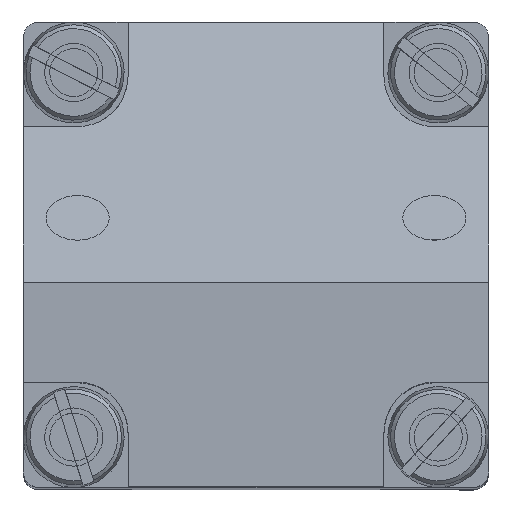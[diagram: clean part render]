
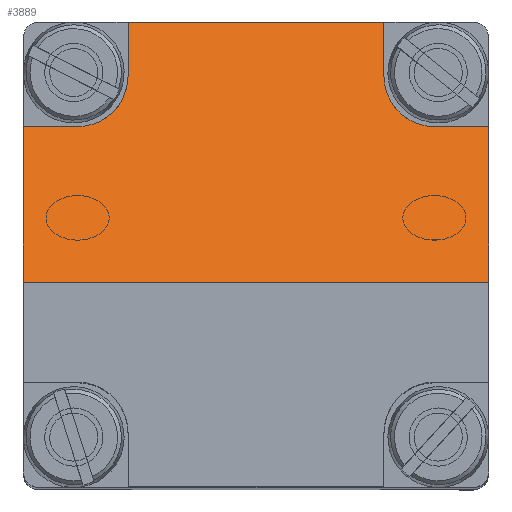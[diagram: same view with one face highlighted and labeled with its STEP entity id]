
A CAD part, top view. The second image highlights one B-rep face of the part: STEP entity #3889.
In plain terms, the highlighted planar face has unit normal (0, 0.707, 0.707).
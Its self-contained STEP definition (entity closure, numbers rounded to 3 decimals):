
#95=ELLIPSE('',#4418,1.838,1.3);
#96=ELLIPSE('',#4419,1.838,1.3);
#376=PLANE('',#4417);
#572=FACE_OUTER_BOUND('',#845,.T.);
#845=EDGE_LOOP('',(#3475,#3476,#3477,#3478,#3479,#3480,#3481,#3482,#3483,
#3484));
#1246=LINE('',#44326,#1515);
#1282=LINE('',#44435,#1551);
#1283=LINE('',#44439,#1552);
#1284=LINE('',#44441,#1553);
#1285=LINE('',#44444,#1554);
#1286=LINE('',#44448,#1555);
#1287=LINE('',#44450,#1556);
#1288=LINE('',#44451,#1557);
#1515=VECTOR('',#5282,10.);
#1551=VECTOR('',#5384,10.);
#1552=VECTOR('',#5387,10.);
#1553=VECTOR('',#5388,10.);
#1554=VECTOR('',#5391,10.);
#1555=VECTOR('',#5394,10.);
#1556=VECTOR('',#5395,10.);
#1557=VECTOR('',#5396,10.);
#1954=VERTEX_POINT('',#44323);
#1955=VERTEX_POINT('',#44325);
#1995=VERTEX_POINT('',#44433);
#1996=VERTEX_POINT('',#44437);
#1997=VERTEX_POINT('',#44438);
#1998=VERTEX_POINT('',#44440);
#1999=VERTEX_POINT('',#44442);
#2000=VERTEX_POINT('',#44445);
#2001=VERTEX_POINT('',#44447);
#2002=VERTEX_POINT('',#44449);
#2448=EDGE_CURVE('',#1955,#1954,#1246,.T.);
#2502=EDGE_CURVE('',#1954,#1995,#1282,.T.);
#2503=EDGE_CURVE('',#1996,#1997,#1283,.T.);
#2504=EDGE_CURVE('',#1997,#1998,#1284,.T.);
#2505=EDGE_CURVE('',#1998,#1999,#95,.T.);
#2506=EDGE_CURVE('',#1999,#1955,#1285,.T.);
#2507=EDGE_CURVE('',#1995,#2000,#96,.T.);
#2508=EDGE_CURVE('',#2000,#2001,#1286,.T.);
#2509=EDGE_CURVE('',#2001,#2002,#1287,.T.);
#2510=EDGE_CURVE('',#2002,#1996,#1288,.T.);
#3475=ORIENTED_EDGE('',*,*,#2503,.T.);
#3476=ORIENTED_EDGE('',*,*,#2504,.T.);
#3477=ORIENTED_EDGE('',*,*,#2505,.T.);
#3478=ORIENTED_EDGE('',*,*,#2506,.T.);
#3479=ORIENTED_EDGE('',*,*,#2448,.T.);
#3480=ORIENTED_EDGE('',*,*,#2502,.T.);
#3481=ORIENTED_EDGE('',*,*,#2507,.T.);
#3482=ORIENTED_EDGE('',*,*,#2508,.T.);
#3483=ORIENTED_EDGE('',*,*,#2509,.T.);
#3484=ORIENTED_EDGE('',*,*,#2510,.T.);
#3889=ADVANCED_FACE('',(#572),#376,.T.);
#4417=AXIS2_PLACEMENT_3D('',#44436,#5385,#5386);
#4418=AXIS2_PLACEMENT_3D('',#44443,#5389,#5390);
#4419=AXIS2_PLACEMENT_3D('',#44446,#5392,#5393);
#5282=DIRECTION('',(-1.,0.,0.));
#5384=DIRECTION('',(0.,-0.707,0.707));
#5385=DIRECTION('center_axis',(0.,0.707,0.707));
#5386=DIRECTION('ref_axis',(1.,0.,0.));
#5387=DIRECTION('',(0.,0.707,-0.707));
#5388=DIRECTION('',(-1.,0.,0.));
#5389=DIRECTION('center_axis',(0.,-0.707,-0.707));
#5390=DIRECTION('ref_axis',(0.,-0.707,0.707));
#5391=DIRECTION('',(0.,0.707,-0.707));
#5392=DIRECTION('center_axis',(0.,-0.707,-0.707));
#5393=DIRECTION('ref_axis',(0.,-0.707,0.707));
#5394=DIRECTION('',(-1.,0.,0.));
#5395=DIRECTION('',(0.,-0.707,0.707));
#5396=DIRECTION('',(1.,0.,0.));
#44323=CARTESIAN_POINT('',(-3.3,6.,2.98));
#44325=CARTESIAN_POINT('',(3.3,6.,2.98));
#44326=CARTESIAN_POINT('',(1.65,6.,2.98));
#44433=CARTESIAN_POINT('',(-3.3,4.6,4.38));
#44435=CARTESIAN_POINT('',(-3.3,6.89,2.09));
#44436=CARTESIAN_POINT('Origin',(0.,2.64,
6.34));
#44437=CARTESIAN_POINT('',(6.,-0.72,9.7));
#44438=CARTESIAN_POINT('',(6.,3.3,5.68));
#44439=CARTESIAN_POINT('',(6.,-1.71,10.69));
#44440=CARTESIAN_POINT('',(4.6,3.3,5.68));
#44441=CARTESIAN_POINT('',(2.3,3.3,5.68));
#44442=CARTESIAN_POINT('',(3.3,4.6,4.38));
#44443=CARTESIAN_POINT('Origin',(4.6,4.6,4.38));
#44444=CARTESIAN_POINT('',(3.3,5.59,3.39));
#44445=CARTESIAN_POINT('',(-4.6,3.3,5.68));
#44446=CARTESIAN_POINT('Origin',(-4.6,4.6,4.38));
#44447=CARTESIAN_POINT('',(-6.,3.3,5.68));
#44448=CARTESIAN_POINT('',(-3.,3.3,5.68));
#44449=CARTESIAN_POINT('',(-6.,-0.72,9.7));
#44450=CARTESIAN_POINT('',(-6.,4.29,4.69));
#44451=CARTESIAN_POINT('',(3.,-0.72,9.7));
